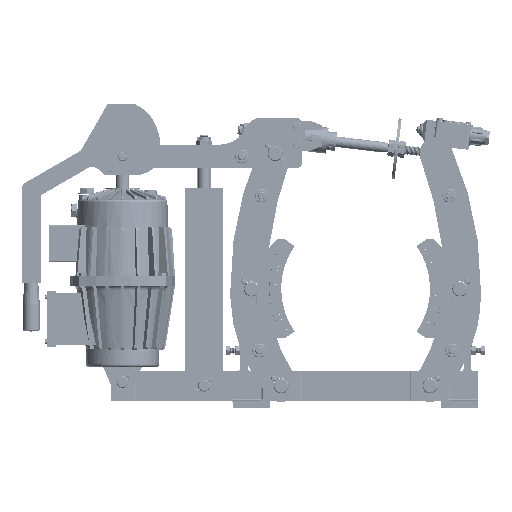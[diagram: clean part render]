
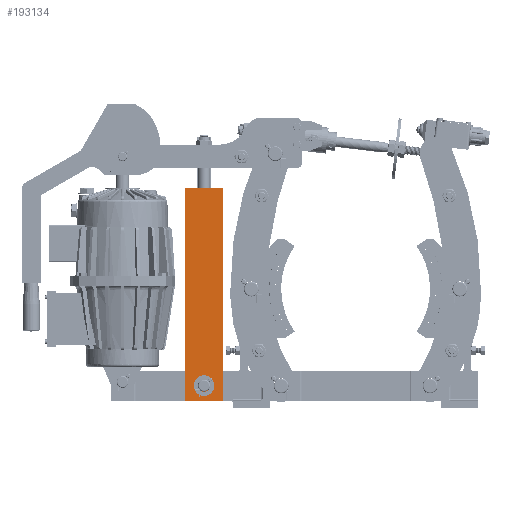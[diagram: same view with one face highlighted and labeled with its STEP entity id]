
A CAD part, left-side view. The second image highlights one B-rep face of the part: STEP entity #193134.
In plain terms, the highlighted planar face has unit normal (-1, 0, 0).
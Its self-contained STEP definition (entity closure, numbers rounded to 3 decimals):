
#192985=DIRECTION('',(0.,1.,0.));
#192986=VECTOR('',#192985,50.);
#192987=CARTESIAN_POINT('',(-70.577,343.504,10.));
#192988=LINE('',#192987,#192986);
#192992=DIRECTION('',(0.,0.,1.));
#192993=VECTOR('',#192992,286.);
#192994=CARTESIAN_POINT('',(-70.577,393.504,10.));
#192995=LINE('',#192994,#192993);
#192999=DIRECTION('',(0.,-1.,0.));
#193000=VECTOR('',#192999,50.);
#193001=CARTESIAN_POINT('',(-70.577,393.504,296.));
#193002=LINE('',#193001,#193000);
#193006=DIRECTION('',(0.,0.,-1.));
#193007=VECTOR('',#193006,286.);
#193008=CARTESIAN_POINT('',(-70.577,343.504,296.));
#193009=LINE('',#193008,#193007);
#193013=CARTESIAN_POINT('',(-70.577,376.504,30.));
#193014=CARTESIAN_POINT('',(-70.577,376.504,
29.699));
#193015=CARTESIAN_POINT('',(-70.577,376.47,
29.102));
#193016=CARTESIAN_POINT('',(-70.577,376.319,
28.214));
#193017=CARTESIAN_POINT('',(-70.577,376.07,
27.351));
#193018=CARTESIAN_POINT('',(-70.577,375.726,
26.521));
#193019=CARTESIAN_POINT('',(-70.577,375.291,
25.734));
#193020=CARTESIAN_POINT('',(-70.577,374.771,
25.));
#193021=CARTESIAN_POINT('',(-70.577,374.171,
24.33));
#193022=CARTESIAN_POINT('',(-70.577,373.501,
23.731));
#193023=CARTESIAN_POINT('',(-70.577,372.768,
23.212));
#193024=CARTESIAN_POINT('',(-70.577,371.982,
22.777));
#193025=CARTESIAN_POINT('',(-70.577,371.153,
22.433));
#193026=CARTESIAN_POINT('',(-70.577,370.289,
22.185));
#193027=CARTESIAN_POINT('',(-70.577,369.402,
22.034));
#193028=CARTESIAN_POINT('',(-70.577,368.805,
22.));
#193029=CARTESIAN_POINT('',(-70.577,368.504,22.));
#193034=CARTESIAN_POINT('',(-70.577,368.504,22.));
#193035=CARTESIAN_POINT('',(-70.577,368.203,
22.));
#193036=CARTESIAN_POINT('',(-70.577,367.606,
22.034));
#193037=CARTESIAN_POINT('',(-70.577,366.718,
22.185));
#193038=CARTESIAN_POINT('',(-70.577,365.855,
22.434));
#193039=CARTESIAN_POINT('',(-70.577,365.025,
22.777));
#193040=CARTESIAN_POINT('',(-70.577,364.238,
23.213));
#193041=CARTESIAN_POINT('',(-70.577,363.504,
23.733));
#193042=CARTESIAN_POINT('',(-70.577,362.834,
24.332));
#193043=CARTESIAN_POINT('',(-70.577,362.235,
25.003));
#193044=CARTESIAN_POINT('',(-70.577,361.715,
25.736));
#193045=CARTESIAN_POINT('',(-70.577,361.281,
26.522));
#193046=CARTESIAN_POINT('',(-70.577,360.937,
27.351));
#193047=CARTESIAN_POINT('',(-70.577,360.688,
28.214));
#193048=CARTESIAN_POINT('',(-70.577,360.537,
29.102));
#193049=CARTESIAN_POINT('',(-70.577,360.504,
29.699));
#193050=CARTESIAN_POINT('',(-70.577,360.504,30.));
#193055=CARTESIAN_POINT('',(-70.577,360.504,30.));
#193056=CARTESIAN_POINT('',(-70.577,360.504,
30.301));
#193057=CARTESIAN_POINT('',(-70.577,360.537,
30.898));
#193058=CARTESIAN_POINT('',(-70.577,360.688,
31.786));
#193059=CARTESIAN_POINT('',(-70.577,360.937,
32.649));
#193060=CARTESIAN_POINT('',(-70.577,361.281,
33.479));
#193061=CARTESIAN_POINT('',(-70.577,361.716,
34.266));
#193062=CARTESIAN_POINT('',(-70.577,362.237,
35.));
#193063=CARTESIAN_POINT('',(-70.577,362.836,
35.67));
#193064=CARTESIAN_POINT('',(-70.577,363.506,
36.269));
#193065=CARTESIAN_POINT('',(-70.577,364.239,
36.788));
#193066=CARTESIAN_POINT('',(-70.577,365.026,
37.223));
#193067=CARTESIAN_POINT('',(-70.577,365.855,
37.567));
#193068=CARTESIAN_POINT('',(-70.577,366.718,
37.815));
#193069=CARTESIAN_POINT('',(-70.577,367.605,
37.966));
#193070=CARTESIAN_POINT('',(-70.577,368.203,
38.));
#193071=CARTESIAN_POINT('',(-70.577,368.504,38.));
#193076=CARTESIAN_POINT('',(-70.577,368.504,38.));
#193077=CARTESIAN_POINT('',(-70.577,368.805,
38.));
#193078=CARTESIAN_POINT('',(-70.577,369.402,
37.966));
#193079=CARTESIAN_POINT('',(-70.577,370.289,
37.815));
#193080=CARTESIAN_POINT('',(-70.577,371.153,
37.566));
#193081=CARTESIAN_POINT('',(-70.577,371.983,
37.223));
#193082=CARTESIAN_POINT('',(-70.577,372.77,
36.787));
#193083=CARTESIAN_POINT('',(-70.577,373.503,
36.267));
#193084=CARTESIAN_POINT('',(-70.577,374.174,
35.668));
#193085=CARTESIAN_POINT('',(-70.577,374.772,
34.997));
#193086=CARTESIAN_POINT('',(-70.577,375.292,
34.264));
#193087=CARTESIAN_POINT('',(-70.577,375.727,
33.478));
#193088=CARTESIAN_POINT('',(-70.577,376.07,
32.649));
#193089=CARTESIAN_POINT('',(-70.577,376.319,
31.786));
#193090=CARTESIAN_POINT('',(-70.577,376.47,
30.898));
#193091=CARTESIAN_POINT('',(-70.577,376.504,
30.301));
#193092=CARTESIAN_POINT('',(-70.577,376.504,30.));
#193097=CARTESIAN_POINT('',(-70.577,343.504,10.));
#193098=CARTESIAN_POINT('',(-70.577,393.504,10.));
#193099=VERTEX_POINT('',#193097);
#193100=VERTEX_POINT('',#193098);
#193101=CARTESIAN_POINT('',(-70.577,393.504,296.));
#193102=VERTEX_POINT('',#193101);
#193103=CARTESIAN_POINT('',(-70.577,343.504,296.));
#193104=VERTEX_POINT('',#193103);
#193105=VERTEX_POINT('',#193013);
#193106=VERTEX_POINT('',#193029);
#193107=VERTEX_POINT('',#193050);
#193108=VERTEX_POINT('',#193071);
#193109=CARTESIAN_POINT('',(-70.577,368.504,153.));
#193110=DIRECTION('',(1.,0.,0.));
#193111=DIRECTION('',(0.,0.,1.));
#193112=AXIS2_PLACEMENT_3D('',#193109,#193110,#193111);
#193113=PLANE('',#193112);
#193115=ORIENTED_EDGE('',*,*,#193114,.T.);
#193117=ORIENTED_EDGE('',*,*,#193116,.T.);
#193119=ORIENTED_EDGE('',*,*,#193118,.T.);
#193121=ORIENTED_EDGE('',*,*,#193120,.T.);
#193122=EDGE_LOOP('',(#193115,#193117,#193119,#193121));
#193123=FACE_OUTER_BOUND('',#193122,.F.);
#193125=ORIENTED_EDGE('',*,*,#193124,.T.);
#193127=ORIENTED_EDGE('',*,*,#193126,.T.);
#193129=ORIENTED_EDGE('',*,*,#193128,.T.);
#193131=ORIENTED_EDGE('',*,*,#193130,.T.);
#193132=EDGE_LOOP('',(#193125,#193127,#193129,#193131));
#193133=FACE_BOUND('',#193132,.F.);
#193134=ADVANCED_FACE('',(#193123,#193133),#193113,.F.);
#193030=B_SPLINE_CURVE_WITH_KNOTS('',3,(#193013,#193014,#193015,#193016,#193017,
#193018,#193019,#193020,#193021,#193022,#193023,#193024,#193025,#193026,#193027,
#193028,#193029),.UNSPECIFIED.,.F.,.F.,(4,1,1,1,1,1,1,1,1,1,1,1,1,1,4),(0.,
0.071,0.143,0.214,0.286,
0.357,0.429,0.5,0.571,0.643,
0.714,0.786,0.857,0.929,1.),
.UNSPECIFIED.);
#193051=B_SPLINE_CURVE_WITH_KNOTS('',3,(#193034,#193035,#193036,#193037,#193038,
#193039,#193040,#193041,#193042,#193043,#193044,#193045,#193046,#193047,#193048,
#193049,#193050),.UNSPECIFIED.,.F.,.F.,(4,1,1,1,1,1,1,1,1,1,1,1,1,1,4),(0.,
0.071,0.143,0.214,0.286,
0.357,0.429,0.5,0.571,0.643,
0.714,0.786,0.857,0.929,1.),
.UNSPECIFIED.);
#193072=B_SPLINE_CURVE_WITH_KNOTS('',3,(#193055,#193056,#193057,#193058,#193059,
#193060,#193061,#193062,#193063,#193064,#193065,#193066,#193067,#193068,#193069,
#193070,#193071),.UNSPECIFIED.,.F.,.F.,(4,1,1,1,1,1,1,1,1,1,1,1,1,1,4),(0.,
0.071,0.143,0.214,0.286,
0.357,0.429,0.5,0.571,0.643,
0.714,0.786,0.857,0.929,1.),
.UNSPECIFIED.);
#193093=B_SPLINE_CURVE_WITH_KNOTS('',3,(#193076,#193077,#193078,#193079,#193080,
#193081,#193082,#193083,#193084,#193085,#193086,#193087,#193088,#193089,#193090,
#193091,#193092),.UNSPECIFIED.,.F.,.F.,(4,1,1,1,1,1,1,1,1,1,1,1,1,1,4),(0.,
0.071,0.143,0.214,0.286,
0.357,0.429,0.5,0.571,0.643,
0.714,0.786,0.857,0.929,1.),
.UNSPECIFIED.);
#193114=EDGE_CURVE('',#193099,#193100,#192988,.T.);
#193116=EDGE_CURVE('',#193100,#193102,#192995,.T.);
#193118=EDGE_CURVE('',#193102,#193104,#193002,.T.);
#193120=EDGE_CURVE('',#193104,#193099,#193009,.T.);
#193124=EDGE_CURVE('',#193105,#193106,#193030,.T.);
#193126=EDGE_CURVE('',#193106,#193107,#193051,.T.);
#193128=EDGE_CURVE('',#193107,#193108,#193072,.T.);
#193130=EDGE_CURVE('',#193108,#193105,#193093,.T.);
